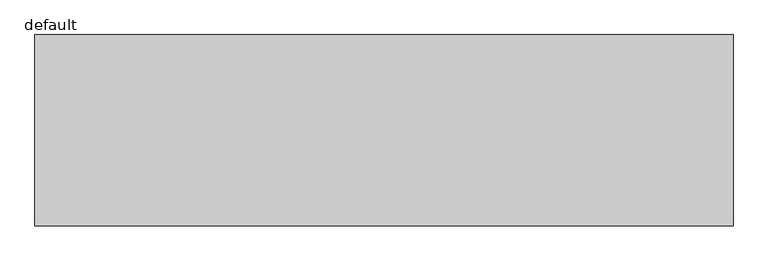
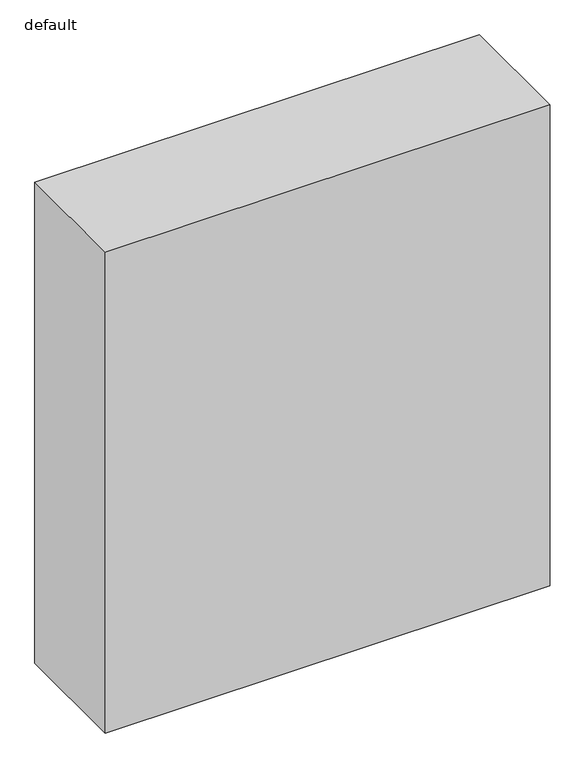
"""IFC4 building model written with IfcOpenShell, lengths in millimetres: furniture geometry, Fu_шкаф встроенный_LEG : default."""

from ifc_helpers import new_model, si_unit, origin, origin_with_axes, place, context, project, spatial, polyline, outline, extrude, source, transform, mapped, element, save


def default_14032b75(model_context):
    return source(origin(), model_context, "Body", "SweptSolid", [
        extrude(outline(polyline([(2188.8655946, 0.0), (0.0, 0.0), (0.0, 600.0), (2188.8655946, 600.0), (2188.8655946, 0.0)])), origin_with_axes(), (0.0, 0.0, 1.0), 2500.0),
    ])


if __name__ == "__main__":
    model = new_model("IFC4")
    model_context = context("Model", 3, world=origin())
    ifc_project = project(units=[si_unit("LENGTHUNIT", "METRE", prefix="MILLI")], contexts=[model_context])
    site = spatial("IfcSite", under=ifc_project)
    building = spatial("IfcBuilding", under=site)
    placement = place(None, origin())
    default_shape = default_14032b75(model_context)
    element("IfcFurniture", 1, ObjectType="Fu_шкаф встроенный_LEG : default", at=placement, inside=building, context=model_context, shape_type="MappedRepresentation", body=[
        mapped(default_shape, transform((0.0, 0.0, 0.0), x_axis=(1.0, 0.0, 0.0), y_axis=(0.0, 1.0, 0.0), z_axis=(0.0, 0.0, 1.0))),
    ])
    save(model, "model.ifc")
